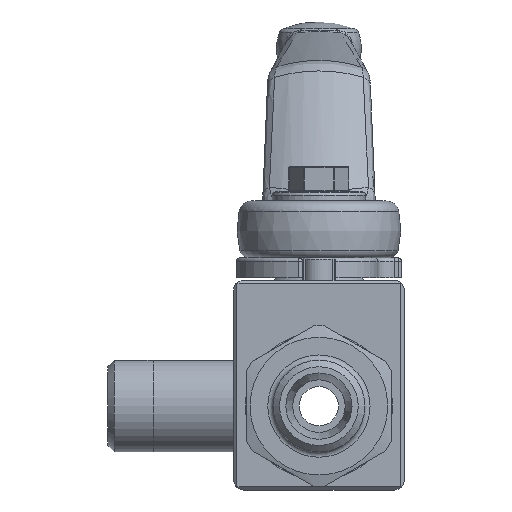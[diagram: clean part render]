
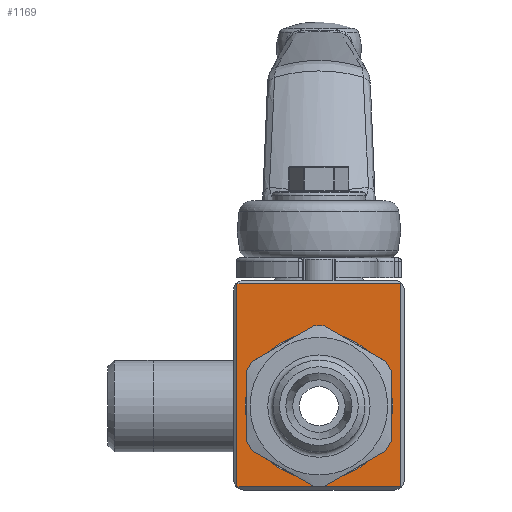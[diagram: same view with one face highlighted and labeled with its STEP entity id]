
A CAD part, front view. The second image highlights one B-rep face of the part: STEP entity #1169.
In plain terms, the highlighted planar face has unit normal (0, -1, 0).
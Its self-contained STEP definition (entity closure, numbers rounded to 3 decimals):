
#1169 = ADVANCED_FACE( '', ( #2362, #2363 ), #2364, .F. );
#2362 = FACE_BOUND( '', #4539, .T. );
#2363 = FACE_OUTER_BOUND( '', #4540, .T. );
#2364 = PLANE( '', #4541 );
#4539 = EDGE_LOOP( '', ( #7505 ) );
#4540 = EDGE_LOOP( '', ( #7506, #7507, #7508, #7509 ) );
#4541 = AXIS2_PLACEMENT_3D( '', #7510, #7511, #7512 );
#7505 = ORIENTED_EDGE( '', *, *, #8715, .T. );
#7506 = ORIENTED_EDGE( '', *, *, #8674, .T. );
#7507 = ORIENTED_EDGE( '', *, *, #9361, .T. );
#7508 = ORIENTED_EDGE( '', *, *, #8662, .T. );
#7509 = ORIENTED_EDGE( '', *, *, #8531, .T. );
#7510 = CARTESIAN_POINT( '', ( -13., -18.1, 19.2 ) );
#7511 = DIRECTION( '', ( 0., 1., 0. ) );
#7512 = DIRECTION( '', ( 0., 0., 1. ) );
#8531 = EDGE_CURVE( '', #9975, #9976, #9977, .T. );
#8662 = EDGE_CURVE( '', #10185, #9975, #10186, .T. );
#8674 = EDGE_CURVE( '', #9976, #10203, #10205, .T. );
#8715 = EDGE_CURVE( '', #10268, #10268, #10269, .T. );
#9361 = EDGE_CURVE( '', #10203, #10185, #11142, .T. );
#9975 = VERTEX_POINT( '', #12259 );
#9976 = VERTEX_POINT( '', #12260 );
#9977 = LINE( '', #12261, #12262 );
#10185 = VERTEX_POINT( '', #12706 );
#10186 = LINE( '', #12707, #12708 );
#10203 = VERTEX_POINT( '', #12729 );
#10205 = LINE( '', #12732, #12733 );
#10268 = VERTEX_POINT( '', #12869 );
#10269 = CIRCLE( '', #12870, 11.25 );
#11142 = LINE( '', #14496, #14497 );
#12259 = CARTESIAN_POINT( '', ( 12.5, -18.1, 18.7 ) );
#12260 = CARTESIAN_POINT( '', ( -12.5, -18.1, 18.7 ) );
#12261 = CARTESIAN_POINT( '', ( -13., -18.1, 18.7 ) );
#12262 = VECTOR( '', #15079, 1000. );
#12706 = CARTESIAN_POINT( '', ( 12.5, -18.1, -12.3 ) );
#12707 = CARTESIAN_POINT( '', ( 12.5, -18.1, 19.2 ) );
#12708 = VECTOR( '', #15259, 1000. );
#12729 = CARTESIAN_POINT( '', ( -12.5, -18.1, -12.3 ) );
#12732 = CARTESIAN_POINT( '', ( -12.5, -18.1, 19.2 ) );
#12733 = VECTOR( '', #15277, 1000. );
#12869 = CARTESIAN_POINT( '', ( 0., -18.1, -11.25 ) );
#12870 = AXIS2_PLACEMENT_3D( '', #15330, #15331, #15332 );
#14496 = CARTESIAN_POINT( '', ( -13., -18.1, -12.3 ) );
#14497 = VECTOR( '', #16139, 1000. );
#15079 = DIRECTION( '', ( -1., 0., 0. ) );
#15259 = DIRECTION( '', ( 0., 0., 1. ) );
#15277 = DIRECTION( '', ( 0., 0., -1. ) );
#15330 = CARTESIAN_POINT( '', ( 0., -18.1, 0. ) );
#15331 = DIRECTION( '', ( 0., 1., 0. ) );
#15332 = DIRECTION( '', ( 0., 0., -1. ) );
#16139 = DIRECTION( '', ( 1., 0., 0. ) );
